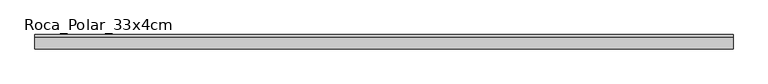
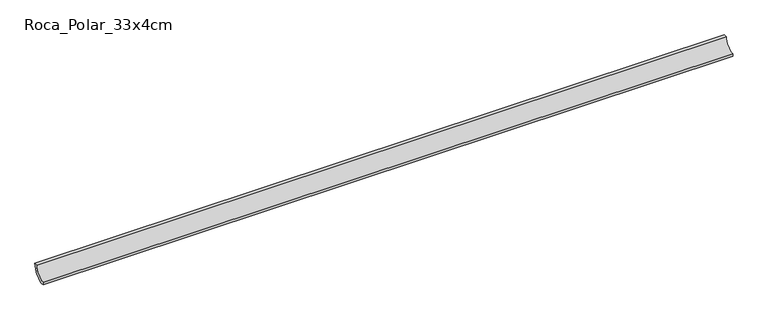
"""IFC4 building model written with IfcOpenShell, lengths in millimetres: proxy geometry, EXAGRES - Piscina Mediacaña : Roca_Polar_33x4cm."""

from ifc_helpers import new_model, si_unit, point, frame, frame_2d, origin, place, context, project, spatial, polyline, circle_curve, trimmed, segment, composite_curve, outline, extrude, source, transform, mapped, element, save


def roca_polar_33x4cm_c740a98f(model_context):
    return source(origin(), model_context, "Body", "SweptSolid", [
        extrude(outline(composite_curve([segment(polyline([(0.0, 23.9), (6.4, 23.9)]), True, "CONTINUOUS"), segment(trimmed(circle_curve(frame_2d((-23.9, 23.9)), 30.3), [point((6.4, 23.9))], [point((-23.9, -6.4))], False, "CARTESIAN"), True, "CONTINUOUS"), segment(polyline([(-23.9, -6.4), (-23.9, 0.0)]), True, "CONTINUOUS"), segment(trimmed(circle_curve(frame_2d((-23.9, 23.9)), 23.9), [point((-23.9, 0.0))], [point((0.0, 23.9))], True, "CARTESIAN"), True, "CONTINUOUS")], self_intersect=False)), frame((23.9, 0.0, 0.0), z_axis=(1.0, 0.0, 0.0), x_axis=(0.0, 1.0, 0.0)), (0.0, 0.0, 1.0), 1476.1),
    ])


if __name__ == "__main__":
    model = new_model("IFC4")
    model_context = context("Model", 3, world=origin())
    ifc_project = project(units=[si_unit("LENGTHUNIT", "METRE", prefix="MILLI")], contexts=[model_context])
    site = spatial("IfcSite", under=ifc_project)
    building = spatial("IfcBuilding", under=site)
    placement = place(None, origin())
    roca_polar_33x4cm_shape = roca_polar_33x4cm_c740a98f(model_context)
    element("IfcBuildingElementProxy", 1, Name="EXAGRES - Piscina Mediacaña : Roca_Polar_33x4cm", ObjectType="EXAGRES - Piscina Mediacaña : Roca_Polar_33x4cm", at=placement, inside=building, context=model_context, shape_type="MappedRepresentation", body=[
        mapped(roca_polar_33x4cm_shape, transform((0.0, 0.0, 0.0), x_axis=(1.0, 0.0, 0.0), y_axis=(0.0, 1.0, 0.0), z_axis=(0.0, 0.0, 1.0))),
    ])
    save(model, "model.ifc")
